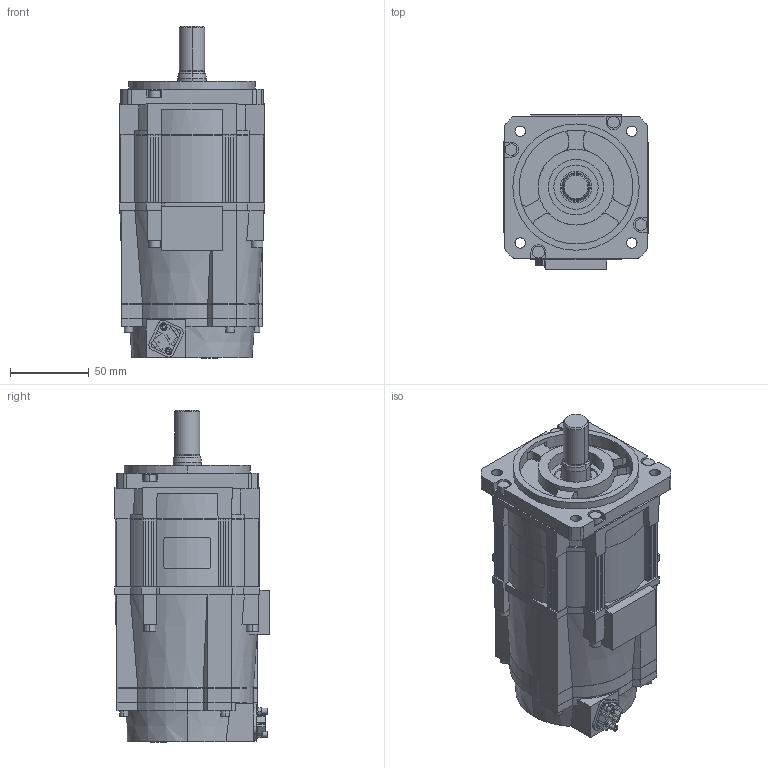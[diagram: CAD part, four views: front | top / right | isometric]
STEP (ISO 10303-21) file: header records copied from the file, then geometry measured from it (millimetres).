
FILE_DESCRIPTION (( 'STEP AP214' ), '1' );
FILE_NAME ('sgmxg_05aua2ca1.STEP', '2022-09-14T02:55:06', ( '' ), ( '' ), 'SwSTEP 2.0', 'SolidWorks 2016', '' );
FILE_SCHEMA (( 'AUTOMOTIVE_DESIGN' ));
Length unit declared in the file: millimetre
Products named in the file (1): sgmxg_05aua2ca1
Bounding box: 92 x 98 x 210.2 mm (x, y, z)
Volume: 1135858 mm3; surface area: 89503.1 mm2
Topology: 1 solids, 1 shells, 618 faces, 1722 edges, 1137 vertices
Faces by surface type: plane 416, cylinder 180, cone 14, torus 4, bspline 4
Entity records: 20618 total; most frequent: CARTESIAN_POINT 3833, ORIENTED_EDGE 3444, DIRECTION 3286, EDGE_CURVE 1722, VECTOR 1236, LINE 1236, VERTEX_POINT 1137, AXIS2_PLACEMENT_3D 1025
